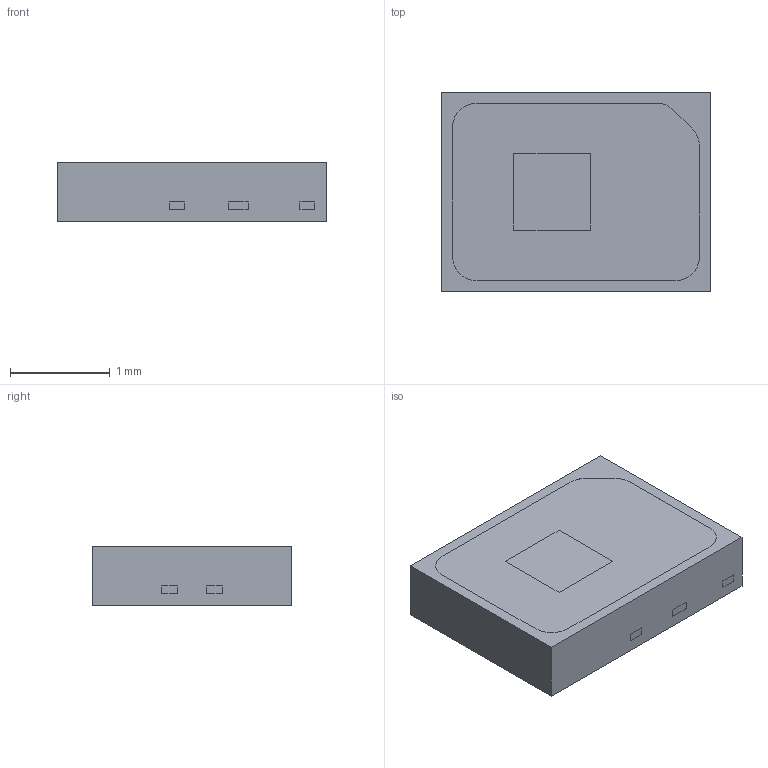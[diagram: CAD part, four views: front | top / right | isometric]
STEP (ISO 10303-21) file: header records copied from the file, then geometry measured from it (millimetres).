
FILE_DESCRIPTION (( 'STEP AP214' ), '1' );
FILE_NAME ('LDK.STEP', '2025-04-11T03:29:43', ( '' ), ( '' ), 'SwSTEP 2.0', 'SolidWorks 2022', '' );
FILE_SCHEMA (( 'AUTOMOTIVE_DESIGN' ));
Length unit declared in the file: millimetre
Products named in the file (1): LDK
Bounding box: 2.7 x 2 x 0.6 mm (x, y, z)
Volume: 3.2 mm3; surface area: 31.8 mm2
Topology: 3 solids, 3 shells, 169 faces, 495 edges, 330 vertices
Faces by surface type: plane 97, cylinder 66, bspline 6
Entity records: 7414 total; most frequent: CARTESIAN_POINT 1073, ORIENTED_EDGE 990, DIRECTION 943, EDGE_CURVE 495, LINE 351, VECTOR 351, VERTEX_POINT 330, AXIS2_PLACEMENT_3D 296
